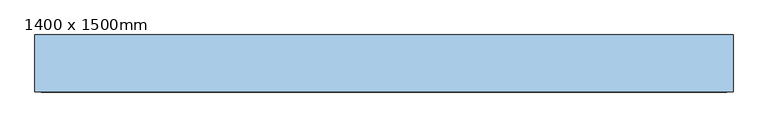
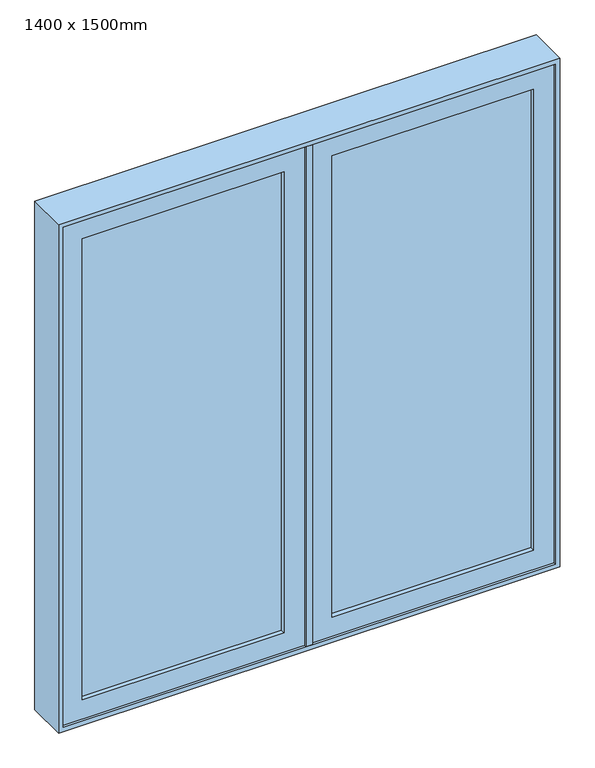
"""IFC4 building model written with IfcOpenShell, lengths in millimetres: window geometry, M_Okno, dvoukřídlé : 1400 x 1500mm."""

from ifc_helpers import new_model, si_unit, frame, origin, place, context, project, spatial, polyline, outline, extrude, faceted_brep, source, transform, mapped, element, save


def window_1400_x_1500mm_e7e683e0(model_context):
    return source(origin(), model_context, "Body", "SolidModel", [
        faceted_brep([(668.25, -68.25, 2368.25), (-668.25, -68.25, 2368.25), (-668.25, -4.75, 2368.25), (668.25, -4.75, 2368.25), (687.3, -119.05, 2387.3), (-687.3, -119.05, 2387.3), (-687.3, -68.25, 2387.3), (687.3, -68.25, 2387.3), (700.0, -4.75, 2400.0), (-700.0, -4.75, 2400.0), (-700.0, -119.05, 2400.0), (700.0, -119.05, 2400.0), (-668.25, -68.25, 931.75), (-668.25, -4.75, 931.75), (-687.3, -119.05, 912.7), (-687.3, -68.25, 912.7), (-700.0, -4.75, 900.0), (-700.0, -119.05, 900.0), (668.25, -68.25, 931.75), (668.25, -4.75, 931.75), (687.3, -119.05, 912.7), (687.3, -68.25, 912.7), (700.0, -4.75, 900.0), (700.0, -119.05, 900.0)], [[[0, 1, 2, 3]], [[4, 5, 6, 7]], [[8, 9, 10, 11]], [[1, 12, 13, 2]], [[5, 14, 15, 6]], [[9, 16, 17, 10]], [[12, 18, 19, 13]], [[14, 20, 21, 15]], [[16, 22, 23, 17]], [[9, 8, 22, 16], [3, 2, 13, 19]], [[18, 0, 3, 19]], [[7, 6, 15, 21], [1, 0, 18, 12]], [[20, 4, 7, 21]], [[22, 8, 11, 23]], [[11, 10, 17, 23], [5, 4, 20, 14]]]),
        extrude(outline(polyline([(912.7, 9.525), (912.7, 687.3), (2387.3, 687.3), (2387.3, 9.525), (912.7, 9.525)]), holes=[polyline([(969.85, 630.15), (969.85, 66.675), (2330.15, 66.675), (2330.15, 630.15), (969.85, 630.15)])]), frame((0.0, -112.7, 0.0), z_axis=(0.0, 1.0, 0.0), x_axis=(0.0, 0.0, 1.0)), (0.0, 0.0, 1.0), 44.45),
        extrude(outline(polyline([(2387.3, -9.525), (2387.3, -687.3), (912.7, -687.3), (912.7, -9.525), (2387.3, -9.525)]), holes=[polyline([(2330.15, -630.15), (2330.15, -66.675), (969.85, -66.675), (969.85, -630.15), (2330.15, -630.15)])]), frame((0.0, -112.7, 0.0), z_axis=(0.0, 1.0, 0.0), x_axis=(0.0, 0.0, 1.0)), (0.0, 0.0, 1.0), 44.45),
        extrude(outline(polyline([(630.15, -100.0), (66.675, -100.0), (66.675, -93.65), (630.15, -93.65), (630.15, -100.0)])), frame((0.0, 0.0, 969.85), z_axis=(0.0, 0.0, 1.0), x_axis=(1.0, 0.0, 0.0)), (0.0, 0.0, 1.0), 1360.3),
        extrude(outline(polyline([(66.675, -80.95), (630.15, -80.95), (630.15, -87.3), (66.675, -87.3), (66.675, -80.95)])), frame((0.0, 0.0, 969.85), z_axis=(0.0, 0.0, 1.0), x_axis=(1.0, 0.0, 0.0)), (0.0, 0.0, 1.0), 1360.3),
        extrude(outline(polyline([(-66.675, -100.0), (-630.15, -100.0), (-630.15, -93.65), (-66.675, -93.65), (-66.675, -100.0)])), frame((0.0, 0.0, 969.85), z_axis=(0.0, 0.0, 1.0), x_axis=(1.0, 0.0, 0.0)), (0.0, 0.0, 1.0), 1360.3),
        extrude(outline(polyline([(-630.15, -80.95), (-66.675, -80.95), (-66.675, -87.3), (-630.15, -87.3), (-630.15, -80.95)])), frame((0.0, 0.0, 969.85), z_axis=(0.0, 0.0, 1.0), x_axis=(1.0, 0.0, 0.0)), (0.0, 0.0, 1.0), 1360.3),
        faceted_brep([(9.525, -119.05, 2387.3), (9.525, -68.25, 2387.3), (-9.525, -68.25, 2387.3), (-9.525, -119.05, 2387.3), (9.525, -119.05, 912.7), (-9.525, -119.05, 912.7), (-9.525, -68.25, 912.7), (9.525, -68.25, 912.7), (-9.525, -68.25, 2368.25), (-9.525, -68.25, 931.75), (-30.1625, -68.25, 2368.25), (-30.1625, -68.25, 931.75), (-30.1625, -4.75, 2368.25), (-30.1625, -4.75, 931.75), (30.1625, -4.75, 2368.25), (30.1625, -4.75, 931.75), (30.1625, -68.25, 2368.25), (30.1625, -68.25, 931.75), (9.525, -68.25, 2368.25), (9.525, -68.25, 931.75)], [[[0, 1, 2, 3]], [[4, 5, 6, 7]], [[3, 5, 4, 0]], [[2, 8, 9, 6, 5, 3]], [[8, 10, 11, 9]], [[10, 12, 13, 11]], [[12, 14, 15, 13]], [[14, 16, 17, 15]], [[16, 18, 19, 17]], [[0, 4, 7, 19, 18, 1]], [[8, 2, 1, 18]], [[19, 7, 6, 9]], [[9, 11, 13, 15, 17, 19]], [[18, 16, 14, 12, 10, 8]]]),
    ])


if __name__ == "__main__":
    model = new_model("IFC4")
    model_context = context("Model", 3, world=origin())
    ifc_project = project(units=[si_unit("LENGTHUNIT", "METRE", prefix="MILLI")], contexts=[model_context])
    site = spatial("IfcSite", under=ifc_project)
    building = spatial("IfcBuilding", under=site)
    placement = place(None, origin())
    window_1400_x_1500mm_shape = window_1400_x_1500mm_e7e683e0(model_context)
    element("IfcWindow", 1, ObjectType="M_Okno, dvoukřídlé : 1400 x 1500mm", at=placement, inside=building, context=model_context, shape_type="MappedRepresentation", body=[
        mapped(window_1400_x_1500mm_shape, transform((0.0, 0.0, 0.0), x_axis=(1.0, 0.0, 0.0), y_axis=(0.0, 1.0, 0.0), z_axis=(0.0, 0.0, 1.0))),
    ])
    save(model, "model.ifc")
